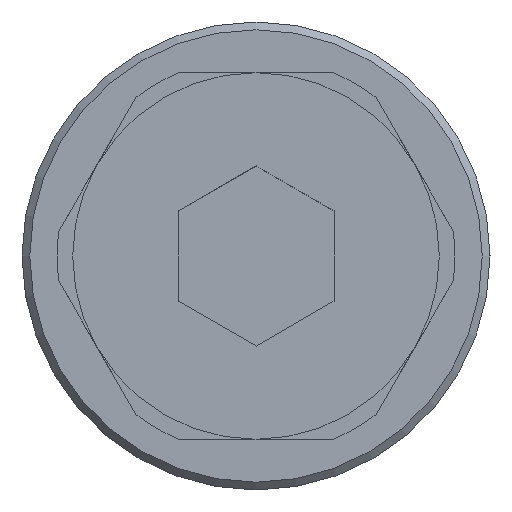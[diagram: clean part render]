
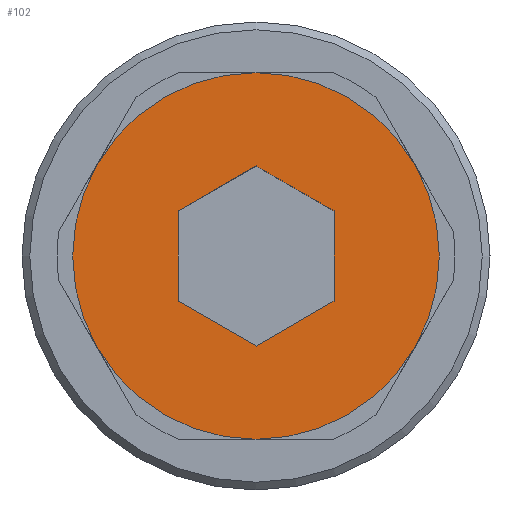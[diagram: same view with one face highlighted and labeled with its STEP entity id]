
A CAD part, left-side view. The second image highlights one B-rep face of the part: STEP entity #102.
In plain terms, the highlighted planar face has unit normal (-1, 0, 0).
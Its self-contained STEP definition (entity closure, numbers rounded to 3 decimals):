
#102 = ADVANCED_FACE( '', ( #218, #219 ), #220, .F. );
#218 = FACE_OUTER_BOUND( '', #344, .T. );
#219 = FACE_BOUND( '', #345, .T. );
#220 = PLANE( '', #346 );
#344 = EDGE_LOOP( '', ( #556 ) );
#345 = EDGE_LOOP( '', ( #557, #558, #559, #560, #561, #562 ) );
#346 = AXIS2_PLACEMENT_3D( '', #563, #564, #565 );
#556 = ORIENTED_EDGE( '', *, *, #769, .F. );
#557 = ORIENTED_EDGE( '', *, *, #770, .F. );
#558 = ORIENTED_EDGE( '', *, *, #771, .F. );
#559 = ORIENTED_EDGE( '', *, *, #716, .F. );
#560 = ORIENTED_EDGE( '', *, *, #772, .F. );
#561 = ORIENTED_EDGE( '', *, *, #690, .F. );
#562 = ORIENTED_EDGE( '', *, *, #773, .F. );
#563 = CARTESIAN_POINT( '', ( 4.3, 0., 0. ) );
#564 = DIRECTION( '', ( 1., 0., 0. ) );
#565 = DIRECTION( '', ( 0., 0., -1. ) );
#690 = EDGE_CURVE( '', #802, #803, #804, .T. );
#716 = EDGE_CURVE( '', #847, #848, #849, .T. );
#769 = EDGE_CURVE( '', #925, #925, #926, .T. );
#770 = EDGE_CURVE( '', #927, #928, #929, .T. );
#771 = EDGE_CURVE( '', #848, #927, #930, .T. );
#772 = EDGE_CURVE( '', #803, #847, #931, .T. );
#773 = EDGE_CURVE( '', #928, #802, #932, .T. );
#802 = VERTEX_POINT( '', #964 );
#803 = VERTEX_POINT( '', #965 );
#804 = LINE( '', #966, #967 );
#847 = VERTEX_POINT( '', #1022 );
#848 = VERTEX_POINT( '', #1023 );
#849 = LINE( '', #1024, #1025 );
#925 = VERTEX_POINT( '', #1122 );
#926 = CIRCLE( '', #1123, 2.35 );
#927 = VERTEX_POINT( '', #1124 );
#928 = VERTEX_POINT( '', #1125 );
#929 = LINE( '', #1126, #1127 );
#930 = LINE( '', #1128, #1129 );
#931 = LINE( '', #1130, #1131 );
#932 = LINE( '', #1132, #1133 );
#964 = CARTESIAN_POINT( '', ( 4.3, 1., -0.577 ) );
#965 = CARTESIAN_POINT( '', ( 4.3, 0., -1.155 ) );
#966 = CARTESIAN_POINT( '', ( 4.3, 0.5, -0.866 ) );
#967 = VECTOR( '', #1173, 1000. );
#1022 = CARTESIAN_POINT( '', ( 4.3, -1., -0.577 ) );
#1023 = CARTESIAN_POINT( '', ( 4.3, -1., 0.577 ) );
#1024 = CARTESIAN_POINT( '', ( 4.3, -1., 0. ) );
#1025 = VECTOR( '', #1207, 1000. );
#1122 = CARTESIAN_POINT( '', ( 4.3, 0., -2.35 ) );
#1123 = AXIS2_PLACEMENT_3D( '', #1274, #1275, #1276 );
#1124 = CARTESIAN_POINT( '', ( 4.3, 0., 1.155 ) );
#1125 = CARTESIAN_POINT( '', ( 4.3, 1., 0.577 ) );
#1126 = CARTESIAN_POINT( '', ( 4.3, 0.5, 0.866 ) );
#1127 = VECTOR( '', #1277, 1000. );
#1128 = CARTESIAN_POINT( '', ( 4.3, -0.5, 0.866 ) );
#1129 = VECTOR( '', #1278, 1000. );
#1130 = CARTESIAN_POINT( '', ( 4.3, -0.5, -0.866 ) );
#1131 = VECTOR( '', #1279, 1000. );
#1132 = CARTESIAN_POINT( '', ( 4.3, 1., 0. ) );
#1133 = VECTOR( '', #1280, 1000. );
#1173 = DIRECTION( '', ( 0., -0.866, -0.5 ) );
#1207 = DIRECTION( '', ( 0., 0., 1. ) );
#1274 = CARTESIAN_POINT( '', ( 4.3, 0., 0. ) );
#1275 = DIRECTION( '', ( 1., 0., 0. ) );
#1276 = DIRECTION( '', ( 0., 0., -1. ) );
#1277 = DIRECTION( '', ( 0., 0.866, -0.5 ) );
#1278 = DIRECTION( '', ( 0., 0.866, 0.5 ) );
#1279 = DIRECTION( '', ( 0., -0.866, 0.5 ) );
#1280 = DIRECTION( '', ( 0., 0., -1. ) );
